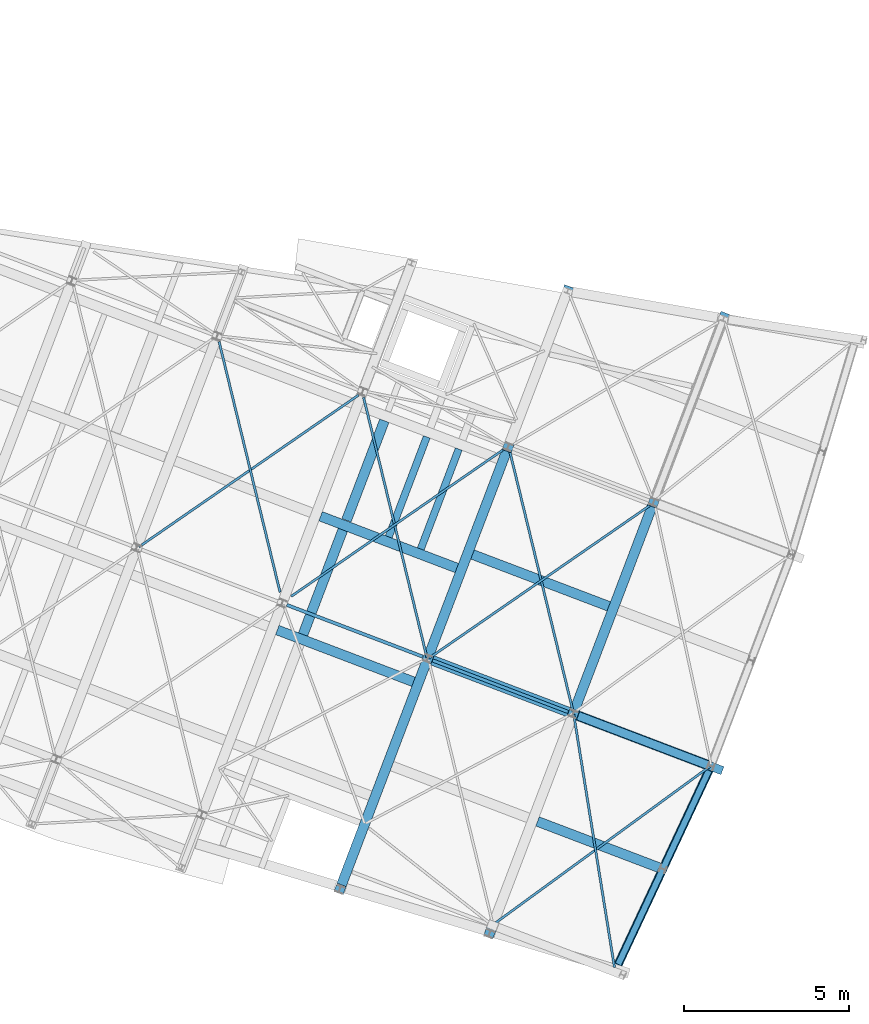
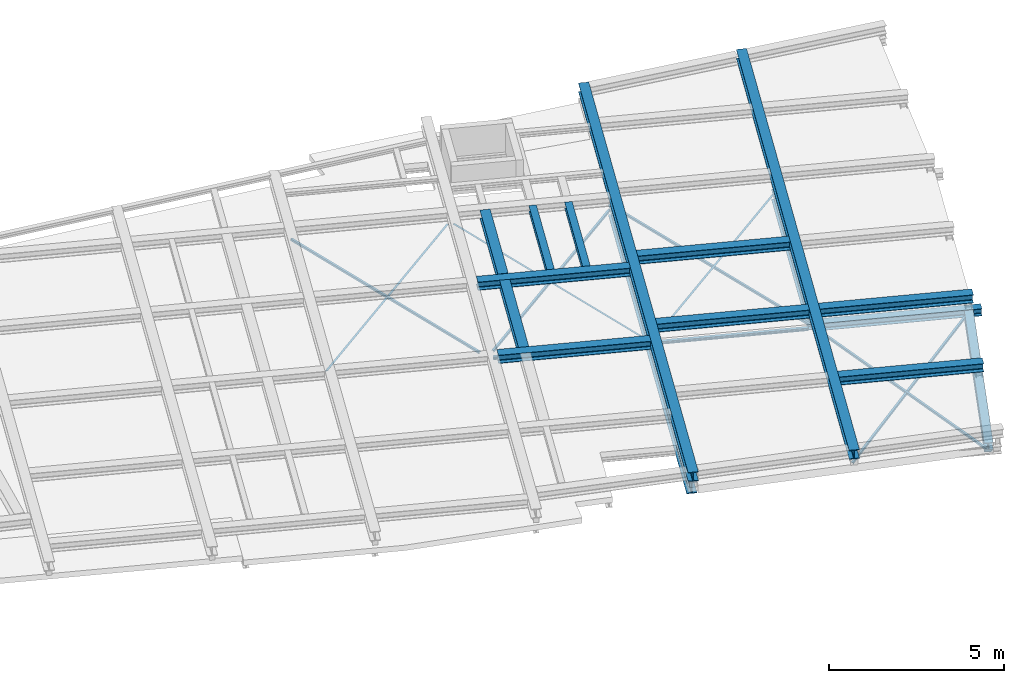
# One storey, part 15 of 21: 27 beams.
"""IFC2X3 building model written with IfcOpenShell, lengths in millimetres."""

import ifcopenshell
import ifcopenshell.guid

model = None  # the IFC model being written
_history = None  # IfcOwnerHistory: only IFC2X3 demands one
_inside = {}  # id of a spatial element -> (the spatial element, [elements in it])
_under = {}  # id of a project, library or spatial element -> (it, [spatial elements below it])
_declared = {}  # id of a project -> (the project, [libraries it declares])
_typed = {}  # id of a type object -> (the type object, [elements of that type])
_made_of = {}  # id of a material, layer set ... -> (it, [elements and type objects made of it])


def new_model(schema):
    """Start an empty IFC model of exactly this schema.

    Asked for "IFC4X3", IfcOpenShell would pick the latest addendum, in which some entities
    have other attributes; the version numbers below select the first issue.
    IFC2X3 requires an IfcOwnerHistory on every rooted entity: one is made here for all.
    """
    global model, _history
    if schema == "IFC4X3":
        model = ifcopenshell.file(schema_version=(4, 3, 0, 0))
    else:
        model = ifcopenshell.file(schema=schema)
    _inside.clear()
    _under.clear()
    _declared.clear()
    _typed.clear()
    _made_of.clear()
    _history = None
    if model.schema == "IFC2X3":
        org = make("IfcOrganization", Name="unknown")
        user = make(
            "IfcPersonAndOrganization",
            ThePerson=make("IfcPerson", FamilyName="unknown"),
            TheOrganization=org,
        )
        app = make(
            "IfcApplication",
            ApplicationDeveloper=org,
            Version="unknown",
            ApplicationFullName="unknown",
            ApplicationIdentifier="unknown",
        )
        _history = make(
            "IfcOwnerHistory",
            OwningUser=user,
            OwningApplication=app,
            ChangeAction="ADDED",
            CreationDate=0,
        )
    return model


def make(cls, **values):
    """One entity of the class cls with the attributes given. An attribute that is None is left unset."""
    return model.create_entity(
        cls, **{name: value for name, value in values.items() if value is not None}
    )


def entity(cls, *values):
    """Any entity or typed value of the class cls, its attributes in the order of the schema. None: left unset."""
    e = model.create_entity(cls)
    for i, value in enumerate(values):
        if value is not None:
            e[i] = value
    return e


def rooted(cls, **values):
    """An entity with a GlobalId (a new one), such as an element, a storey or a relation."""
    return make(cls, GlobalId=ifcopenshell.guid.new(), OwnerHistory=_history, **values)


def si_unit(unit_type, name, prefix=None):
    """IfcSIUnit, for example si_unit("LENGTHUNIT", "METRE", prefix="MILLI")."""
    return make("IfcSIUnit", UnitType=unit_type, Prefix=prefix, Name=name)


def converted_unit(unit_type, name, factor, base, dimensions=None, offset=None):
    """IfcConversionBasedUnit, such as the inch: factor (a typed value) times the base unit."""
    return make(
        "IfcConversionBasedUnit"
        if offset is None
        else "IfcConversionBasedUnitWithOffset",
        ConversionOffset=offset,
        Dimensions=None
        if dimensions is None
        else entity("IfcDimensionalExponents", *dimensions),
        UnitType=unit_type,
        Name=name,
        ConversionFactor=make(
            "IfcMeasureWithUnit", ValueComponent=factor, UnitComponent=base
        ),
    )


def derived_unit(unit_type, elements):
    """IfcDerivedUnit: a product of units, each with its exponent."""
    return make(
        "IfcDerivedUnit",
        Elements=[
            make("IfcDerivedUnitElement", Unit=unit, Exponent=power)
            for unit, power in elements
        ],
        UnitType=unit_type,
    )


def assignment(units):
    """IfcUnitAssignment: the units of a project."""
    return None if units is None else make("IfcUnitAssignment", Units=units)


def point(xyz):
    """IfcCartesianPoint."""
    return None if xyz is None else make("IfcCartesianPoint", Coordinates=xyz)


def direction(xyz):
    """IfcDirection."""
    return None if xyz is None else make("IfcDirection", DirectionRatios=xyz)


def frame(location, z_axis=None, x_axis=None):
    """IfcAxis2Placement3D, a coordinate frame: its origin and axes. An axis left out is left unset."""
    return make(
        "IfcAxis2Placement3D",
        Location=point(location),
        Axis=direction(z_axis),
        RefDirection=direction(x_axis),
    )


def frame_2d(location, x_axis=None):
    """IfcAxis2Placement2D, a coordinate frame in the plane: its origin and x axis."""
    return make(
        "IfcAxis2Placement2D", Location=point(location), RefDirection=direction(x_axis)
    )


def origin():
    """The frame at (0, 0, 0) with its axes left unset."""
    return frame((0.0, 0.0, 0.0))


def place(relative_to, where):
    """IfcLocalPlacement: puts the frame where relative to a parent placement (None: the world)."""
    return make(
        "IfcLocalPlacement", PlacementRelTo=relative_to, RelativePlacement=where
    )


def context(
    kind, dimensions, precision=None, world=None, true_north=None, identifier=None
):
    """IfcGeometricRepresentationContext, for example the 3D "Model" context."""
    return make(
        "IfcGeometricRepresentationContext",
        ContextIdentifier=identifier,
        ContextType=kind,
        CoordinateSpaceDimension=dimensions,
        Precision=precision,
        WorldCoordinateSystem=world,
        TrueNorth=true_north,
    )


def subcontext(parent, identifier, kind, view, scale=None):
    """IfcGeometricRepresentationSubContext, for example "Body" below "Model"."""
    return make(
        "IfcGeometricRepresentationSubContext",
        ContextIdentifier=identifier,
        ContextType=kind,
        ParentContext=parent,
        TargetScale=scale,
        TargetView=view,
    )


def project(units=None, contexts=None):
    """IfcProject with its units and contexts."""
    return rooted(
        "IfcProject",
        Name="project",
        RepresentationContexts=contexts,
        UnitsInContext=assignment(units),
    )


def spatial(cls, under=None, at=None, **own):
    """A site, building, storey or space (cls), placed at a placement, below another one or the project."""
    s = rooted(cls, ObjectPlacement=at, **own)
    if under is not None:
        _under.setdefault(under.id(), (under, []))[1].append(s)
    return s


def polyline(points):
    """IfcPolyline through the points."""
    return make("IfcPolyline", Points=[point(p) for p in points])


def circle_curve(where, radius):
    """IfcCircle in the frame where."""
    return make("IfcCircle", Position=where, Radius=radius)


def parameter(value):
    """IfcParameterValue: where a trimmed curve begins or ends, as a parameter of its basis curve."""
    return model.create_entity("IfcParameterValue", value)


def trimmed(basis, trim1, trim2, sense, master):
    """IfcTrimmedCurve: the piece of a basis curve between two trims."""
    return make(
        "IfcTrimmedCurve",
        BasisCurve=basis,
        Trim1=trim1,
        Trim2=trim2,
        SenseAgreement=sense,
        MasterRepresentation=master,
    )


def segment(curve, same_sense, transition):
    """IfcCompositeCurveSegment."""
    return make(
        "IfcCompositeCurveSegment",
        Transition=transition,
        SameSense=same_sense,
        ParentCurve=curve,
    )


def composite_curve(segments, self_intersect=None):
    """IfcCompositeCurve: segments joined end to end."""
    return make("IfcCompositeCurve", Segments=segments, SelfIntersect=self_intersect)


def profile(cls, at=None, kind="AREA", **sizes):
    """A parametric profile (cls). Its sizes go by their IFC names, for example OverallWidth=200.0."""
    return make(cls, ProfileType=kind, Position=at, **sizes)


def i_section(**sizes):
    """IfcIShapeProfileDef."""
    return profile("IfcIShapeProfileDef", **sizes)


def outline(outer, holes=None, kind="AREA"):
    """IfcArbitraryClosedProfileDef: a profile drawn as a closed curve; with holes, ...WithVoids."""
    if holes is None:
        return make("IfcArbitraryClosedProfileDef", ProfileType=kind, OuterCurve=outer)
    return make(
        "IfcArbitraryProfileDefWithVoids",
        ProfileType=kind,
        OuterCurve=outer,
        InnerCurves=holes,
    )


def extrude(swept, where, along, depth):
    """IfcExtrudedAreaSolid: the profile swept, set in the frame where, extruded along a direction by depth."""
    return make(
        "IfcExtrudedAreaSolid",
        SweptArea=swept,
        Position=where,
        ExtrudedDirection=direction(along),
        Depth=depth,
    )


def shape(context_of_items, identifier, shape_type, items):
    """IfcShapeRepresentation: the items that make up one representation, for example the "Body"."""
    return make(
        "IfcShapeRepresentation",
        ContextOfItems=context_of_items,
        RepresentationIdentifier=identifier,
        RepresentationType=shape_type,
        Items=items,
    )


def material(Name=None, Category=None):
    """IfcMaterial."""
    return make("IfcMaterial", Name=Name, Category=Category)


def made_of(thing, what):
    """Note that an element or type object is made of a material, layer set ...; save() writes the relation."""
    if what is not None:
        _made_of.setdefault(what.id(), (what, []))[1].append(thing)
    return thing


def type_object(cls, material=None, **own):
    """A type object (cls), such as IfcWallType, which elements share."""
    return made_of(rooted(cls, **own), material)


def element(
    cls,
    number,
    at=None,
    inside=None,
    cuts=None,
    type_object=None,
    material=None,
    context=None,
    identifier="Body",
    shape_type=None,
    held_by="IfcProductDefinitionShape",
    body=None,
    shapes=None,
    **own,
):
    """One element of the class cls, such as IfcWall. Its Tag is "e" and its number.

    at: its placement. inside: the storey or other place that contains it. cuts: it is an
    opening in that element (IfcRelVoidsElement). A single representation is given by context,
    identifier, shape_type and body (its items); several are given by shapes. held_by: the class
    of the entity that holds the representations. save() writes the other relations.
    """
    e = rooted(cls, Tag="e%d" % number, ObjectPlacement=at, **own)
    if body is not None:
        shapes = [shape(context, identifier, shape_type, body)]
    if shapes is not None:
        e.Representation = make(held_by, Representations=shapes)
    if inside is not None:
        _inside.setdefault(inside.id(), (inside, []))[1].append(e)
    if cuts is not None:
        rooted(
            "IfcRelVoidsElement", RelatingBuildingElement=cuts, RelatedOpeningElement=e
        )
    if type_object is not None:
        _typed.setdefault(type_object.id(), (type_object, []))[1].append(e)
    return made_of(e, material)


def aggregate(whole, parts):
    """IfcRelAggregates: a whole, such as a stair, and the parts it consists of."""
    return rooted("IfcRelAggregates", RelatingObject=whole, RelatedObjects=parts)


def save(model, path):
    """Write the relations noted so far, then the file.

    IfcRelAggregates (storeys below a building ...), IfcRelContainedInSpatialStructure (elements
    in a storey), IfcRelDefinesByType, IfcRelAssociatesMaterial and IfcRelDeclares: one each for
    every whole, place, type object, material and project.
    """
    for whole, parts in _under.values():
        aggregate(whole, parts)
    for where, things in _inside.values():
        rooted(
            "IfcRelContainedInSpatialStructure",
            RelatedElements=things,
            RelatingStructure=where,
        )
    for kind, things in _typed.values():
        rooted("IfcRelDefinesByType", RelatedObjects=things, RelatingType=kind)
    for what, things in _made_of.values():
        rooted("IfcRelAssociatesMaterial", RelatedObjects=things, RelatingMaterial=what)
    for by, libraries in _declared.values():
        rooted("IfcRelDeclares", RelatingContext=by, RelatedDefinitions=libraries)
    model.write(path)


model = new_model("IFC2X3")

# Units and contexts
model_context = context("Model", 3, precision=0.01, world=origin(), true_north=direction((6.123233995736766e-17, 1.0)))
body_context = subcontext(model_context, "Body", "Model", "MODEL_VIEW")
ifc_project = project(units=[si_unit("LENGTHUNIT", "METRE", prefix="MILLI"), converted_unit("PLANEANGLEUNIT", "DEGREE", entity("IfcPlaneAngleMeasure", 0.017453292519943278), si_unit("PLANEANGLEUNIT", "RADIAN"), dimensions=[0, 0, 0, 0, 0, 0, 0]), si_unit("AREAUNIT", "SQUARE_METRE"), derived_unit("THERMALTRANSMITTANCEUNIT", [(si_unit("MASSUNIT", "GRAM", prefix="KILO"), 1), (si_unit("THERMODYNAMICTEMPERATUREUNIT", "KELVIN"), -1), (si_unit("TIMEUNIT", "SECOND"), -3)])], contexts=[model_context])

# Site, building, storey
site_placement = place(None, frame((-72937.88054949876, 11621.45624098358, 0.0), z_axis=(0.0, 0.0, 1.0), x_axis=(0.9346418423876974, -0.35559053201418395, 0.0)))
site = spatial("IfcSite", under=ifc_project, at=site_placement, Name="Default", CompositionType="ELEMENT")
building_placement = place(site_placement, origin())
building = spatial("IfcBuilding", under=site, at=building_placement, CompositionType="ELEMENT")
storey_placement = place(building_placement, frame((0.0, 0.0, 4250.0)))
storey = spatial("IfcBuildingStorey", under=building, at=storey_placement, Name="01 eerste verdieping", CompositionType="ELEMENT", Elevation=4250.0)

# Beams
ifc_material_1 = material(Name="metaal_staal_generiek")
beam_type_1 = type_object("IfcBeamType", Name="HEA400", PredefinedType="BEAM")
beam_1_placement = place(storey_placement, frame((57570.0, 14395.0, -80.0), z_axis=(0.0, 0.0, 1.0), x_axis=(0.0, 1.0, 0.0)))
element("IfcBeam", 1, at=beam_1_placement, inside=storey, type_object=beam_type_1, material=ifc_material_1, Name="28.11_Stalen balk HEA", ObjectType="stalen balk HEA profiel", context=body_context, shape_type="SweptSolid", body=[
    extrude(i_section(OverallWidth=300.0000000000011, OverallDepth=390.0000000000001, WebThickness=10.999999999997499, FlangeThickness=19.000000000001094, FilletRadius=26.999999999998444, at=frame_2d((0.0, 8.65441052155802e-12), x_axis=(0.0, 1.0))), frame((125.0, 0.0, -195.0), z_axis=(1.0, 0.0, 0.0), x_axis=(0.0, 0.0, -1.0)), (0.0, 0.0, 1.0), 14102.3),
])
beam_type_2 = type_object("IfcBeamType", Name="DIE38", PredefinedType="BEAM")
beam_2_placement = place(storey_placement, frame((62300.0, 21755.0, -80.0), z_axis=(0.0, 0.0, 1.0), x_axis=(0.0, 1.0, 0.0)))
element("IfcBeam", 2, at=beam_2_placement, inside=storey, type_object=beam_type_2, material=ifc_material_1, Name="28.11_Stalen balk HEA", ObjectType="stalen balk HEA profiel", context=body_context, shape_type="SweptSolid", body=[
    extrude(i_section(OverallWidth=300.0000000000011, OverallDepth=369.9999999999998, WebThickness=10.999999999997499, FlangeThickness=19.000000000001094, FilletRadius=26.999999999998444, at=frame_2d((2.7000623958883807e-13, 0.0), x_axis=(0.0, 1.0))), frame((255.0, 0.0, -185.0), z_axis=(1.0, 0.0, 0.0), x_axis=(0.0, 0.0, -1.0)), (0.0, 0.0, 1.0), 6612.300000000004),
])
beam_type_3 = type_object("IfcBeamType", Name="DIE10", PredefinedType="BEAM")
beam_3_placement = place(storey_placement, frame((57570.0, 21880.0, -80.0)))
element("IfcBeam", 3, at=beam_3_placement, inside=storey, type_object=beam_type_3, material=ifc_material_1, Name="28.11_Stalen balk HEA", ObjectType="stalen balk HEA profiel", context=body_context, shape_type="SweptSolid", body=[
    extrude(i_section(OverallWidth=99.99999999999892, OverallDepth=95.99999999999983, WebThickness=4.999999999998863, FlangeThickness=8.000000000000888, FilletRadius=12.000000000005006, at=frame_2d((1.623590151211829e-12, 2.1671553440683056e-12), x_axis=(0.0, 1.0))), frame((162.6999999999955, 0.0, -218.0), z_axis=(1.0, 0.0, 0.0), x_axis=(0.0, 0.0, -1.0)), (0.0, 0.0, 1.0), 4404.600000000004),
])
beam_4_placement = place(storey_placement, frame((52840.0, 21880.0, -80.0)))
element("IfcBeam", 4, at=beam_4_placement, inside=storey, type_object=beam_type_3, material=ifc_material_1, Name="28.11_Stalen balk HEA", ObjectType="stalen balk HEA profiel", context=body_context, shape_type="SweptSolid", body=[
    extrude(i_section(OverallWidth=99.99999999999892, OverallDepth=95.99999999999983, WebThickness=4.999999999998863, FlangeThickness=8.000000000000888, FilletRadius=12.000000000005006, at=frame_2d((5.400124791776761e-13, 2.1671553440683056e-12), x_axis=(0.0, 1.0))), frame((150.0, 0.0, -218.0), z_axis=(1.0, 0.0, 0.0), x_axis=(0.0, 0.0, -1.0)), (0.0, 0.0, 1.0), 4417.300000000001),
])
beam_type_4 = type_object("IfcBeamType", Name="DIE26", PredefinedType="BEAM")
beam_5_placement = place(storey_placement, frame((67030.00015558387, 21880.0, -80.0), z_axis=(0.0, 0.0, 1.0), x_axis=(-1.0, 0.0, 0.0)))
element("IfcBeam", 5, at=beam_5_placement, inside=storey, type_object=beam_type_4, material=ifc_material_1, Name="28.11_Stalen balk HEA", ObjectType="stalen balk HEA profiel", context=body_context, shape_type="SweptSolid", body=[
    extrude(i_section(OverallWidth=260.00000000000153, OverallDepth=250.00000000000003, WebThickness=7.500000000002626, FlangeThickness=12.500000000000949, FilletRadius=23.999999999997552, at=frame_2d((-2.7000623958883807e-13, 0.0), x_axis=(0.0, 1.0))), frame((-124.99992220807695, 0.0, -125.0), z_axis=(1.0, 0.0, 0.0), x_axis=(0.0, 0.0, -1.0)), (0.0, 0.0, 1.0), 4692.3),
])
beam_6_placement = place(storey_placement, frame((66779.31423777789, 21880.0, -80.0), z_axis=(0.0, 0.0, 1.0), x_axis=(-0.07392507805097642, -0.9972637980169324, 0.0)))
element("IfcBeam", 6, at=beam_6_placement, inside=storey, type_object=beam_type_4, material=ifc_material_1, Name="28.11_Stalen balk HEA", ObjectType="stalen balk HEA profiel", context=body_context, shape_type="SweptSolid", body=[
    extrude(i_section(OverallWidth=259.9999999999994, OverallDepth=250.00000000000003, WebThickness=7.499999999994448, FlangeThickness=12.500000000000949, FilletRadius=24.00000000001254, at=frame_2d((2.7000623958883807e-13, 0.0), x_axis=(0.0, 1.0))), frame((140.0, 0.0, -125.0), z_axis=(1.0, 0.0, 0.0), x_axis=(0.0, 0.0, -1.0)), (0.0, 0.0, 1.0), 6647.100000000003),
])
beam_type_5 = type_object("IfcBeamType", Name="L70x7", PredefinedType="NOTDEFINED")
beam_7_placement = place(storey_placement, frame((66779.31423777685, 21880.0, -270.0), z_axis=(0.0, 0.0, 1.0), x_axis=(-0.5452347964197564, -0.8382833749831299, 0.0)))
element("IfcBeam", 7, at=beam_7_placement, inside=storey, type_object=beam_type_5, material=ifc_material_1, Name="28.11_SF_WVB-L-Gelijkzijdig:L70x7", ObjectType="28.11_SF_WVB-L-Gelijkzijdig:L70x7", context=body_context, shape_type="SweptSolid", body=[
    extrude(outline(composite_curve([segment(polyline([(-26.444444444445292, -43.55555555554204), (-23.944444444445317, -43.55555555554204)]), True, "CONTINUOUS"), segment(trimmed(circle_curve(frame_2d((-23.94444444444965, -39.055555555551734), x_axis=(0.0, -1.0)), 4.500000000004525), [parameter(0.0)], [parameter(89.99999999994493)], True, "PARAMETER"), True, "CONTINUOUS"), segment(polyline([(-19.444444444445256, -39.055555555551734), (-19.444444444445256, 10.444444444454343)]), True, "CONTINUOUS"), segment(trimmed(circle_curve(frame_2d((-10.444444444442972, 10.444444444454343), x_axis=(-1.0, 0.0)), 9.000000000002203), [parameter(270.0000000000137)], [parameter(0.0)], True, "PARAMETER"), False, "CONTINUOUS"), segment(polyline([(-10.444444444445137, 19.44444444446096), (39.05555555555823, 19.44444444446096)]), True, "CONTINUOUS"), segment(trimmed(circle_curve(frame_2d((39.0555555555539, 23.944444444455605), x_axis=(0.0, -1.0)), 4.500000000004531), [parameter(0.0)], [parameter(89.99999999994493)], True, "PARAMETER"), True, "CONTINUOUS"), segment(polyline([(43.55555555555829, 23.944444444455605), (43.55555555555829, 26.44444444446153)]), True, "CONTINUOUS"), segment(polyline([(43.55555555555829, 26.44444444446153), (-26.444444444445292, 26.44444444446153)]), True, "CONTINUOUS"), segment(polyline([(-26.444444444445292, 26.444444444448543), (-26.444444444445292, -43.55555555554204)]), True, "CONTINUOUS")], self_intersect=False)), frame((30.412118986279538, -6.744444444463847, -6.7444444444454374), z_axis=(1.0, 0.0, 0.0), x_axis=(0.0, 0.0, -1.0)), (0.0, 0.0, 1.0), 8178.200000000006),
])
beam_type_6 = type_object("IfcBeamType", Name="L70x7", PredefinedType="BEAM")
beam_8_placement = place(storey_placement, frame((62300.0, 21880.0, -270.0), z_axis=(0.0, 0.0, 1.0), x_axis=(-0.5665288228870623, 0.8240419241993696, 0.0)))
element("IfcBeam", 8, at=beam_8_placement, inside=storey, type_object=beam_type_6, material=ifc_material_1, Name="28.11_SF_WVB-L-Gelijkzijdig:L70x7", ObjectType="28.11_SF_WVB-L-Gelijkzijdig:L70x7", context=body_context, shape_type="SweptSolid", body=[
    extrude(outline(composite_curve([segment(polyline([(-26.444444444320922, -43.555555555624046), (-23.944444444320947, -43.555555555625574)]), True, "CONTINUOUS"), segment(trimmed(circle_curve(frame_2d((-23.944444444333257, -39.05555555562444), x_axis=(0.0, -1.0)), 4.499999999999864), [parameter(0.0)], [parameter(90.00000000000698)], True, "PARAMETER"), True, "CONTINUOUS"), segment(polyline([(-19.444444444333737, -39.05555555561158), (-19.44444444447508, 10.444444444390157)]), True, "CONTINUOUS"), segment(trimmed(circle_curve(frame_2d((-10.444444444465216, 10.444444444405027), x_axis=(-1.0, 0.0)), 9.000000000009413), [parameter(270.000000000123)], [parameter(0.0)], True, "PARAMETER"), False, "CONTINUOUS"), segment(polyline([(-10.44444444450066, 19.444444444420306), (39.05555555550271, 19.444444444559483)]), True, "CONTINUOUS"), segment(trimmed(circle_curve(frame_2d((39.05555555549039, 23.94444444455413), x_axis=(0.0, -1.0)), 4.499999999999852), [parameter(0.0)], [parameter(90.00000000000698)], True, "PARAMETER"), True, "CONTINUOUS"), segment(polyline([(43.55555555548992, 23.94444444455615), (43.55555555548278, 26.444444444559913)]), True, "CONTINUOUS"), segment(polyline([(43.55555555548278, 26.444444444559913), (-26.4444444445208, 26.444444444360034)]), True, "CONTINUOUS"), segment(polyline([(-26.4444444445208, 26.444444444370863), (-26.444444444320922, -43.55555555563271)]), True, "CONTINUOUS")], self_intersect=False)), frame((87.89488537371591, -6.744444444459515, -6.7444444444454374), z_axis=(1.0, 0.0, 0.0), x_axis=(0.0, 0.0, -1.0)), (0.0, 0.0, 1.0), 8084.500000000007),
])
beam_9_placement = place(storey_placement, frame((57570.0, 21880.0, -270.0), z_axis=(0.0, 0.0, 1.0), x_axis=(0.5665288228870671, 0.8240419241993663, 0.0)))
element("IfcBeam", 9, at=beam_9_placement, inside=storey, type_object=beam_type_6, material=ifc_material_1, Name="28.11_SF_WVB-L-Gelijkzijdig:L70x7", ObjectType="28.11_SF_WVB-L-Gelijkzijdig:L70x7", context=body_context, shape_type="SweptSolid", body=[
    extrude(outline(composite_curve([segment(polyline([(-26.444444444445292, -43.55555555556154), (-23.944444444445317, -43.55555555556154)]), True, "CONTINUOUS"), segment(trimmed(circle_curve(frame_2d((-23.944444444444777, -39.055555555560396), x_axis=(0.0, -1.0)), 4.49999999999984), [parameter(0.0)], [parameter(90.00000000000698)], True, "PARAMETER"), True, "CONTINUOUS"), segment(polyline([(-19.444444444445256, -39.055555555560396), (-19.444444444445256, 10.444444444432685)]), True, "CONTINUOUS"), segment(trimmed(circle_curve(frame_2d((-10.444444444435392, 10.44444444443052), x_axis=(-1.0, 0.0)), 9.000000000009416), [parameter(270.0000000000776)], [parameter(0.0)], True, "PARAMETER"), False, "CONTINUOUS"), segment(polyline([(-10.444444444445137, 19.444444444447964), (39.05555555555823, 19.444444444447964)]), True, "CONTINUOUS"), segment(trimmed(circle_curve(frame_2d((39.05555555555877, 23.94444444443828), x_axis=(0.0, -1.0)), 4.499999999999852), [parameter(0.0)], [parameter(90.00000000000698)], True, "PARAMETER"), True, "CONTINUOUS"), segment(polyline([(43.55555555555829, 23.944444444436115), (43.55555555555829, 26.44444444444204)]), True, "CONTINUOUS"), segment(polyline([(43.55555555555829, 26.44444444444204), (-26.444444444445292, 26.44444444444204)]), True, "CONTINUOUS"), segment(polyline([(-26.444444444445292, 26.44444444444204), (-26.444444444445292, -43.55555555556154)]), True, "CONTINUOUS")], self_intersect=False)), frame((41.39488537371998, -6.744444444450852, -6.7444444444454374), z_axis=(1.0, 0.0, 0.0), x_axis=(0.0, 0.0, -1.0)), (0.0, 0.0, 1.0), 8142.400000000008),
])
beam_10_placement = place(storey_placement, frame((57570.0, 28760.0, -270.0), z_axis=(0.0, 0.0, 1.0), x_axis=(-0.5665288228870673, -0.8240419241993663, 0.0)))
element("IfcBeam", 10, at=beam_10_placement, inside=storey, type_object=beam_type_6, material=ifc_material_1, Name="28.11_SF_WVB-L-Gelijkzijdig:L70x7", ObjectType="28.11_SF_WVB-L-Gelijkzijdig:L70x7", context=body_context, shape_type="SweptSolid", body=[
    extrude(outline(composite_curve([segment(polyline([(-26.44444444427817, -43.55555555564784), (-23.944444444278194, -43.55555555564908)]), True, "CONTINUOUS"), segment(trimmed(circle_curve(frame_2d((-23.944444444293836, -39.0555555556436), x_axis=(0.0, -1.0)), 4.499999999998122), [parameter(0.0)], [parameter(90.00000000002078)], True, "PARAMETER"), True, "CONTINUOUS"), segment(polyline([(-19.4444444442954, -39.05555555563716), (-19.44444444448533, 10.444444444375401)]), True, "CONTINUOUS"), segment(trimmed(circle_curve(frame_2d((-10.444444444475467, 10.444444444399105), x_axis=(-1.0, 0.0)), 9.000000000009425), [parameter(270.000000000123)], [parameter(0.0)], True, "PARAMETER"), False, "CONTINUOUS"), segment(polyline([(-10.444444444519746, 19.44444444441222), (39.05555555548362, 19.44444444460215)]), True, "CONTINUOUS"), segment(trimmed(circle_curve(frame_2d((39.055555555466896, 23.944444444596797), x_axis=(0.0, -1.0)), 4.499999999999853), [parameter(0.0)], [parameter(90.00000000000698)], True, "PARAMETER"), True, "CONTINUOUS"), segment(polyline([(43.55555555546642, 23.944444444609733), (43.55555555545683, 26.444444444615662)]), True, "CONTINUOUS"), segment(polyline([(43.55555555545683, 26.444444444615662), (-26.44444444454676, 26.44444444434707)]), True, "CONTINUOUS"), segment(polyline([(-26.44444444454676, 26.44444444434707), (-26.44444444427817, -43.55555555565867)]), True, "CONTINUOUS")], self_intersect=False)), frame((189.3948853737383, -6.744444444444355, -6.7444444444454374), z_axis=(1.0, 0.0, 0.0), x_axis=(0.0, 0.0, -1.0)), (0.0, 0.0, 1.0), 7818.200000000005),
])
beam_11_placement = place(storey_placement, frame((52840.0, 28760.0, -270.0), z_axis=(0.0, 0.0, 1.0), x_axis=(0.5665288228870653, -0.8240419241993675, 0.0)))
element("IfcBeam", 11, at=beam_11_placement, inside=storey, type_object=beam_type_6, material=ifc_material_1, Name="28.11_SF_WVB-L-Gelijkzijdig:L70x7", ObjectType="28.11_SF_WVB-L-Gelijkzijdig:L70x7", context=body_context, shape_type="SweptSolid", body=[
    extrude(outline(composite_curve([segment(polyline([(-26.444444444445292, -43.55555555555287), (-23.944444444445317, -43.55555555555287)]), True, "CONTINUOUS"), segment(trimmed(circle_curve(frame_2d((-23.944444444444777, -39.05555555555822), x_axis=(0.0, -1.0)), 4.499999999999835), [parameter(0.0)], [parameter(90.00000000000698)], True, "PARAMETER"), True, "CONTINUOUS"), segment(polyline([(-19.444444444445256, -39.05555555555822), (-19.444444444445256, 10.444444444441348)]), True, "CONTINUOUS"), segment(trimmed(circle_curve(frame_2d((-10.444444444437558, 10.444444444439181), x_axis=(-1.0, 0.0)), 9.000000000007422), [parameter(270.0000000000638)], [parameter(0.0)], True, "PARAMETER"), False, "CONTINUOUS"), segment(polyline([(-10.444444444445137, 19.444444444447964), (39.05555555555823, 19.444444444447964)]), True, "CONTINUOUS"), segment(trimmed(circle_curve(frame_2d((39.05555555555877, 23.94444444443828), x_axis=(0.0, -1.0)), 4.499999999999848), [parameter(0.0)], [parameter(90.00000000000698)], True, "PARAMETER"), True, "CONTINUOUS"), segment(polyline([(43.55555555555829, 23.94444444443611), (43.55555555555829, 26.444444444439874)]), True, "CONTINUOUS"), segment(polyline([(43.55555555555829, 26.444444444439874), (-26.444444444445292, 26.444444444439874)]), True, "CONTINUOUS"), segment(polyline([(-26.444444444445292, 26.44444444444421), (-26.444444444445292, -43.55555555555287)]), True, "CONTINUOUS")], self_intersect=False)), frame((177.99488537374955, -6.744444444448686, -6.7444444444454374), z_axis=(1.0, 0.0, 0.0), x_axis=(0.0, 0.0, -1.0)), (0.0, 0.0, 1.0), 8124.100000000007),
])
beam_12_placement = place(storey_placement, frame((52840.0, 21880.0, -270.0), z_axis=(0.0, 0.0, 1.0), x_axis=(-0.5665288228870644, 0.8240419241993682, 0.0)))
element("IfcBeam", 12, at=beam_12_placement, inside=storey, type_object=beam_type_6, material=ifc_material_1, Name="28.11_SF_WVB-L-Gelijkzijdig:L70x7", ObjectType="28.11_SF_WVB-L-Gelijkzijdig:L70x7", context=body_context, shape_type="SweptSolid", body=[
    extrude(outline(composite_curve([segment(polyline([(-26.444444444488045, -43.55555555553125), (-23.94444444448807, -43.55555555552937)]), True, "CONTINUOUS"), segment(trimmed(circle_curve(frame_2d((-23.94444444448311, -39.05555555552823), x_axis=(0.0, -1.0)), 4.499999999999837), [parameter(0.0)], [parameter(90.00000000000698)], True, "PARAMETER"), True, "CONTINUOUS"), segment(polyline([(-19.44444444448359, -39.05555555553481), (-19.444444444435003, 10.444444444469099)]), True, "CONTINUOUS"), segment(trimmed(circle_curve(frame_2d((-10.444444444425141, 10.444444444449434), x_axis=(-1.0, 0.0)), 9.000000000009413), [parameter(270.000000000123)], [parameter(0.0)], True, "PARAMETER"), False, "CONTINUOUS"), segment(polyline([(-10.444444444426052, 19.44444444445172), (39.055555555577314, 19.444444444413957)]), True, "CONTINUOUS"), segment(trimmed(circle_curve(frame_2d((39.05555555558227, 23.944444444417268), x_axis=(0.0, -1.0)), 4.499999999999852), [parameter(0.0)], [parameter(90.00000000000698)], True, "PARAMETER"), True, "CONTINUOUS"), segment(polyline([(43.5555555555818, 23.944444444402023), (43.55555555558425, 26.44444444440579)]), True, "CONTINUOUS"), segment(polyline([(43.55555555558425, 26.44444444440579), (-26.444444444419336, 26.4444444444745)]), True, "CONTINUOUS"), segment(polyline([(-26.444444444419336, 26.4444444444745), (-26.444444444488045, -43.555555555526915)]), True, "CONTINUOUS")], self_intersect=False)), frame((340.2948853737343, -6.744444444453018, -6.7444444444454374), z_axis=(1.0, 0.0, 0.0), x_axis=(0.0, 0.0, -1.0)), (0.0, 0.0, 1.0), 7832.100000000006),
])
beam_13_placement = place(storey_placement, frame((48110.0, 21880.0, -270.0), z_axis=(0.0, 0.0, 1.0), x_axis=(0.5665288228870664, 0.8240419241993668, 0.0)))
element("IfcBeam", 13, at=beam_13_placement, inside=storey, type_object=beam_type_6, material=ifc_material_1, Name="28.11_SF_WVB-L-Gelijkzijdig:L70x7", ObjectType="28.11_SF_WVB-L-Gelijkzijdig:L70x7", context=body_context, shape_type="SweptSolid", body=[
    extrude(outline(composite_curve([segment(polyline([(-26.444444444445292, -43.555555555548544), (-23.944444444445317, -43.555555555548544)]), True, "CONTINUOUS"), segment(trimmed(circle_curve(frame_2d((-23.944444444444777, -39.05555555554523), x_axis=(0.0, -1.0)), 4.499999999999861), [parameter(0.0)], [parameter(90.00000000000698)], True, "PARAMETER"), True, "CONTINUOUS"), segment(polyline([(-19.444444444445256, -39.05555555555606), (-19.444444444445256, 10.444444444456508)]), True, "CONTINUOUS"), segment(trimmed(circle_curve(frame_2d((-10.444444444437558, 10.444444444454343), x_axis=(-1.0, 0.0)), 9.000000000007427), [parameter(270.0000000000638)], [parameter(0.0)], True, "PARAMETER"), False, "CONTINUOUS"), segment(polyline([(-10.444444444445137, 19.44444444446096), (39.05555555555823, 19.44444444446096)]), True, "CONTINUOUS"), segment(trimmed(circle_curve(frame_2d((39.05555555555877, 23.94444444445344), x_axis=(0.0, -1.0)), 4.499999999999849), [parameter(0.0)], [parameter(90.00000000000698)], True, "PARAMETER"), True, "CONTINUOUS"), segment(polyline([(43.55555555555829, 23.94444444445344), (43.55555555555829, 26.444444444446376)]), True, "CONTINUOUS"), segment(polyline([(43.55555555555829, 26.444444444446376), (-26.444444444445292, 26.444444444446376)]), True, "CONTINUOUS"), segment(polyline([(-26.444444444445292, 26.444444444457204), (-26.444444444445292, -43.555555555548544)]), True, "CONTINUOUS")], self_intersect=False)), frame((74.14488537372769, -6.7444444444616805, -6.7444444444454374), z_axis=(1.0, 0.0, 0.0), x_axis=(0.0, 0.0, -1.0)), (0.0, 0.0, 1.0), 8109.700000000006),
])
beam_type_7 = type_object("IfcBeamType", Name="L70x7", PredefinedType="JOIST")
beam_14_placement = place(storey_placement, frame((66269.23119922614, 14998.87979368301, -270.0), z_axis=(0.0, 0.0, 1.0), x_axis=(-0.4996598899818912, 0.8662216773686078, 0.0)))
element("IfcBeam", 14, at=beam_14_placement, inside=storey, type_object=beam_type_7, material=ifc_material_1, Name="28.11_SF_WVB-L-Gelijkzijdig:L70x7", ObjectType="28.11_SF_WVB-L-Gelijkzijdig:L70x7", context=body_context, shape_type="SweptSolid", body=[
    extrude(outline(composite_curve([segment(polyline([(-26.444444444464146, -43.55555555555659), (-23.94444444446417, -43.55555555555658)]), True, "CONTINUOUS"), segment(trimmed(circle_curve(frame_2d((-23.944444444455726, -39.05555555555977), x_axis=(0.0, -1.0)), 4.4999999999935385), [parameter(0.0)], [parameter(90.0000000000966)], True, "PARAMETER"), True, "CONTINUOUS"), segment(polyline([(-19.44444444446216, -39.05555555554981), (-19.444444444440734, 10.444444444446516)]), True, "CONTINUOUS"), segment(trimmed(circle_curve(frame_2d((-10.444444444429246, 10.444444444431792), x_axis=(-1.0, 0.0)), 9.000000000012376), [parameter(270.00000000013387)], [parameter(0.0)], True, "PARAMETER"), False, "CONTINUOUS"), segment(polyline([(-10.444444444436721, 19.444444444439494), (39.05555555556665, 19.444444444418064)]), True, "CONTINUOUS"), segment(trimmed(circle_curve(frame_2d((39.05555555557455, 23.944444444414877), x_axis=(0.0, -1.0)), 4.499999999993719), [parameter(0.0)], [parameter(90.0000000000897)], True, "PARAMETER"), True, "CONTINUOUS"), segment(polyline([(43.55555555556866, 23.94444444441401), (43.55555555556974, 26.444444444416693)]), True, "CONTINUOUS"), segment(polyline([(43.55555555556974, 26.444444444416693), (-26.444444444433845, 26.444444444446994)]), True, "CONTINUOUS"), segment(polyline([(-26.444444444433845, 26.444444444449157), (-26.444444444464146, -43.5555555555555)]), True, "CONTINUOUS")], self_intersect=False)), frame((131.76763576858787, -6.744444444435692, -6.7444444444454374), z_axis=(1.0, 0.0, 0.0), x_axis=(0.0, 0.0, -1.0)), (0.0, 0.0, 1.0), 7794.500000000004),
])
beam_type_8 = type_object("IfcBeamType", Name="UNP240", PredefinedType="NOTDEFINED")
beam_15_placement = place(storey_placement, frame((66277.5773405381, 15111.470876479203, -410.0), z_axis=(0.0, 0.0, 1.0), x_axis=(0.0739250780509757, 0.9972637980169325, 0.0)))
element("IfcBeam", 15, at=beam_15_placement, inside=storey, type_object=beam_type_8, material=ifc_material_1, Name="28.11_SF_BalkUNP:UNP240", ObjectType="28.11_SF_BalkUNP:UNP240", context=body_context, shape_type="SweptSolid", body=[
    extrude(outline(composite_curve([segment(polyline([(-38.33631675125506, -120.0), (46.66368324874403, -120.0)]), True, "CONTINUOUS"), segment(polyline([(46.66368324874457, -120.0), (46.66368324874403, 120.0)]), True, "CONTINUOUS"), segment(polyline([(46.66368324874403, 120.0), (-38.33631675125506, 120.0)]), True, "CONTINUOUS"), segment(polyline([(-38.33631675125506, 120.0), (-38.33631675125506, 116.3982515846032)]), True, "CONTINUOUS"), segment(trimmed(circle_curve(frame_2d((-31.836316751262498, 116.39825158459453), x_axis=(-1.0, 0.0)), 6.499999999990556), [parameter(0.0)], [parameter(85.43000000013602)], True, "PARAMETER"), True, "CONTINUOUS"), segment(polyline([(-32.35421725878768, 109.91891681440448), (25.19948426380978, 105.31858479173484)]), True, "CONTINUOUS"), segment(trimmed(circle_curve(frame_2d((24.16368324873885, 92.35991525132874), x_axis=(0.07967700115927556, 0.9968207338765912)), 13.00000000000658), [parameter(274.5700000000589)], [parameter(0.0)], True, "PARAMETER"), False, "CONTINUOUS"), segment(polyline([(37.163683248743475, 92.35991525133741), (37.163683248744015, -92.3599152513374)]), True, "CONTINUOUS"), segment(trimmed(circle_curve(frame_2d((24.16368324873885, -92.35991525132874), x_axis=(1.0, 0.0)), 13.000000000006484), [parameter(274.5700000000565)], [parameter(0.0)], True, "PARAMETER"), False, "CONTINUOUS"), segment(polyline([(25.19948426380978, -105.3185847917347), (-32.35421725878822, -109.91891681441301)]), True, "CONTINUOUS"), segment(trimmed(circle_curve(frame_2d((-31.836316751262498, -116.39825158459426), x_axis=(-0.07967700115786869, 0.9968207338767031)), 6.49999999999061), [parameter(0.0)], [parameter(85.43000000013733)], True, "PARAMETER"), True, "CONTINUOUS"), segment(polyline([(-38.33631675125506, -116.39825158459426), (-38.33631675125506, -120.0)]), True, "CONTINUOUS")], self_intersect=False)), frame((141.6000000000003, 0.0, -38.33631675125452), z_axis=(1.0, 0.0, 0.0), x_axis=(0.0, 0.0, -1.0)), (0.0, 0.0, 1.0), 6505.500000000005),
])
ifc_material_2 = material(Name="metaal_staal_profiel_s235")
beam_type_9 = type_object("IfcBeamType", Name="HEB320", PredefinedType="BEAM")
beam_16_placement = place(storey_placement, frame((62300.0, 14755.456347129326, 450.0), z_axis=(0.0, 0.0, 1.0), x_axis=(0.0, 1.0, 0.0)))
element("IfcBeam", 16, at=beam_16_placement, inside=storey, type_object=beam_type_9, material=ifc_material_2, Name="28.11_Stalen balk HEB", ObjectType="28.11_SF_BalkHEB:HEB320", context=body_context, shape_type="SweptSolid", body=[
    extrude(i_section(OverallWidth=300.0000000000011, OverallDepth=319.99999999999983, WebThickness=11.500000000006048, FlangeThickness=20.500000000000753, FilletRadius=26.999999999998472, at=frame_2d((5.400124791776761e-13, -8.65441052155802e-12), x_axis=(0.0, 1.0))), frame((-125.46654507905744, 0.0, -160.0), z_axis=(1.0, 0.0, 0.0), x_axis=(0.0, 0.0, -1.0)), (0.0, 0.0, 1.0), 20284.0),
])
beam_17_placement = place(storey_placement, frame((57570.0, 14375.0, 450.0), z_axis=(0.0, 0.0, 1.0), x_axis=(0.0, 1.0, 0.0)))
element("IfcBeam", 17, at=beam_17_placement, inside=storey, type_object=beam_type_9, material=ifc_material_2, Name="28.11_Stalen balk HEB", ObjectType="28.11_SF_BalkHEB:HEB320", context=body_context, shape_type="SweptSolid", body=[
    extrude(i_section(OverallWidth=300.0000000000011, OverallDepth=319.99999999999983, WebThickness=11.500000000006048, FlangeThickness=20.500000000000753, FilletRadius=26.999999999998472, at=frame_2d((5.400124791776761e-13, 8.65441052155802e-12), x_axis=(0.0, 1.0))), frame((-104.96939459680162, 0.0, -160.0), z_axis=(1.0, 0.0, 0.0), x_axis=(0.0, 0.0, -1.0)), (0.0, 0.0, 1.0), 19709.200000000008),
])
beam_type_10 = type_object("IfcBeamType", Name="HEA300", PredefinedType="BEAM")
beam_18_placement = place(storey_placement, frame((62300.0, 25320.000811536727, 450.0), z_axis=(0.0, 0.0, 1.0), x_axis=(-1.0, 0.0, 0.0)))
element("IfcBeam", 18, at=beam_18_placement, inside=storey, type_object=beam_type_10, material=ifc_material_2, Name="28.11_Stalen balk HEA", ObjectType="stalen balk HEA profiel", context=body_context, shape_type="SweptSolid", body=[
    extrude(i_section(OverallWidth=299.99999999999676, OverallDepth=290.0000000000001, WebThickness=8.500000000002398, FlangeThickness=14.000000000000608, FilletRadius=26.999999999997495, at=frame_2d((0.0, 2.1600499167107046e-12), x_axis=(0.0, 1.0))), frame((150.0, 0.0, -145.0), z_axis=(1.0, 0.0, 0.0), x_axis=(0.0, 0.0, -1.0)), (0.0, 0.0, 1.0), 4429.999999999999),
])
beam_19_placement = place(storey_placement, frame((66779.31423777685, 21880.0, 450.0), z_axis=(0.0, 0.0, 1.0), x_axis=(-1.0, 0.0, 0.0)))
element("IfcBeam", 19, at=beam_19_placement, inside=storey, type_object=beam_type_10, material=ifc_material_2, Name="28.11_Stalen balk HEA", ObjectType="stalen balk HEA profiel", context=body_context, shape_type="SweptSolid", body=[
    extrude(i_section(OverallWidth=299.99999999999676, OverallDepth=290.0000000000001, WebThickness=8.500000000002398, FlangeThickness=14.00000000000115, FilletRadius=26.999999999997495, at=frame_2d((0.0, -2.1600499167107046e-12), x_axis=(0.0, 1.0))), frame((-124.99288111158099, 0.0, -145.0), z_axis=(1.0, 0.0, 0.0), x_axis=(0.0, 0.0, -1.0)), (0.0, 0.0, 1.0), 4454.300000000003),
])
beam_20_placement = place(storey_placement, frame((62300.0, 21880.0, 450.0), z_axis=(0.0, 0.0, 1.0), x_axis=(-1.0, 0.0, 0.0)))
element("IfcBeam", 20, at=beam_20_placement, inside=storey, type_object=beam_type_10, material=ifc_material_2, Name="28.11_Stalen balk HEA", ObjectType="stalen balk HEA profiel", context=body_context, shape_type="SweptSolid", body=[
    extrude(i_section(OverallWidth=299.99999999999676, OverallDepth=290.0000000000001, WebThickness=8.500000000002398, FlangeThickness=14.000000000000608, FilletRadius=26.999999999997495, at=frame_2d((0.0, 2.1600499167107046e-12), x_axis=(0.0, 1.0))), frame((150.0, 0.0, -145.0), z_axis=(1.0, 0.0, 0.0), x_axis=(0.0, 0.0, -1.0)), (0.0, 0.0, 1.0), 4429.999999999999),
])
beam_21_placement = place(storey_placement, frame((66524.3142473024, 18440.000128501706, 450.0), z_axis=(0.0, 0.0, 1.0), x_axis=(-1.0, 0.0, 0.0)))
element("IfcBeam", 21, at=beam_21_placement, inside=storey, type_object=beam_type_10, material=ifc_material_2, Name="28.11_Stalen balk HEA", ObjectType="stalen balk HEA profiel", context=body_context, shape_type="SweptSolid", body=[
    extrude(i_section(OverallWidth=300.0000000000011, OverallDepth=290.0000000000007, WebThickness=8.500000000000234, FlangeThickness=14.00000000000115, FilletRadius=27.000000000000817, at=frame_2d((5.400124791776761e-13, 1.0800249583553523e-12), x_axis=(0.0, 1.0))), frame((-124.99287634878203, 0.0, -145.0), z_axis=(1.0, 0.0, 0.0), x_axis=(0.0, 0.0, -1.0)), (0.0, 0.0, 1.0), 4199.3),
])
for number, where, z_axis, x_axis, name in (
    (22, (57570.0, 24765.00012850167, 450.0), (0.0, 0.0, 1.0), (-1.0, 0.0, 0.0), "28.11_Stalen balk HEA"),
    (23, (57570.0, 21065.000128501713, 450.0), (0.0, 0.0, 1.0), (-1.0, 0.0, 0.0), "28.11_Stalen balk HEA"),
):
    element("IfcBeam", number, at=place(storey_placement, frame(where, z_axis=z_axis, x_axis=x_axis)), inside=storey, type_object=beam_type_10, material=ifc_material_2, Name=name, ObjectType="stalen balk HEA profiel", context=body_context, shape_type="SweptSolid", body=[
        extrude(i_section(OverallWidth=299.99999999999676, OverallDepth=290.0000000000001, WebThickness=8.500000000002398, FlangeThickness=14.000000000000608, FilletRadius=26.999999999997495, at=frame_2d((0.0, 2.1600499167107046e-12), x_axis=(0.0, 1.0))), frame((150.0, 0.0, -145.0), z_axis=(1.0, 0.0, 0.0), x_axis=(0.0, 0.0, -1.0)), (0.0, 0.0, 1.0), 4429.999999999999),
    ])
beam_22_placement = place(storey_placement, frame((53770.0, 21065.00012850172, 450.0), z_axis=(0.0, 0.0, 1.0), x_axis=(0.0, 1.0, 0.0)))
element("IfcBeam", 24, at=beam_22_placement, inside=storey, type_object=beam_type_10, material=ifc_material_2, Name="28.11_Stalen balk HEA", ObjectType="stalen balk HEA profiel", context=body_context, shape_type="SweptSolid", body=[
    extrude(i_section(OverallWidth=300.0000000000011, OverallDepth=290.0000000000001, WebThickness=8.499999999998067, FlangeThickness=14.000000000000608, FilletRadius=26.999999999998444, at=frame_2d((1.6200374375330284e-12, 0.0), x_axis=(0.0, 1.0))), frame((150.0, 0.0, -145.0), z_axis=(1.0, 0.0, 0.0), x_axis=(0.0, 0.0, -1.0)), (0.0, 0.0, 1.0), 3400.0000000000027),
])
beam_23_placement = place(storey_placement, frame((53770.0, 24765.000128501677, 450.0), z_axis=(0.0, 0.0, 1.0), x_axis=(0.0, 1.0, 0.0)))
element("IfcBeam", 25, at=beam_23_placement, inside=storey, type_object=beam_type_10, material=ifc_material_2, Name="28.11_Stalen balk HEA", ObjectType="stalen balk HEA profiel", context=body_context, shape_type="SweptSolid", body=[
    extrude(i_section(OverallWidth=300.0000000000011, OverallDepth=290.0000000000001, WebThickness=8.499999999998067, FlangeThickness=14.000000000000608, FilletRadius=26.999999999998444, at=frame_2d((1.6200374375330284e-12, 8.65441052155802e-12), x_axis=(0.0, 1.0))), frame((162.69999999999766, 0.0, -145.0), z_axis=(1.0, 0.0, 0.0), x_axis=(0.0, 0.0, -1.0)), (0.0, 0.0, 1.0), 3237.300000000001),
])
beam_type_11 = type_object("IfcBeamType", Name="HEA220", PredefinedType="BEAM")
for number, where, z_axis, x_axis, name in (
    (26, (55149.839083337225, 24765.000128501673, 450.0), (0.0, 0.0, 1.0), (0.0, 1.0, 0.0), "28.11_Stalen balk HEA"),
    (27, (56189.839083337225, 24765.00012850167, 450.0), (0.0, 0.0, 1.0), (0.0, 1.0, 0.0), "28.11_Stalen balk HEA"),
):
    element("IfcBeam", number, at=place(storey_placement, frame(where, z_axis=z_axis, x_axis=x_axis)), inside=storey, type_object=beam_type_11, material=ifc_material_2, Name=name, ObjectType="stalen balk HEA profiel", context=body_context, shape_type="SweptSolid", body=[
        extrude(i_section(OverallWidth=220.00000000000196, OverallDepth=209.9999999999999, WebThickness=6.999999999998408, FlangeThickness=11.000000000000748, FilletRadius=17.999999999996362, at=frame_2d((1.0871303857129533e-12, 0.0), x_axis=(0.0, 1.0))), frame((150.0, 0.0, -105.0), z_axis=(1.0, 0.0, 0.0), x_axis=(0.0, 0.0, -1.0)), (0.0, 0.0, 1.0), 3250.0000000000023),
    ])

save(model, "model.ifc")
